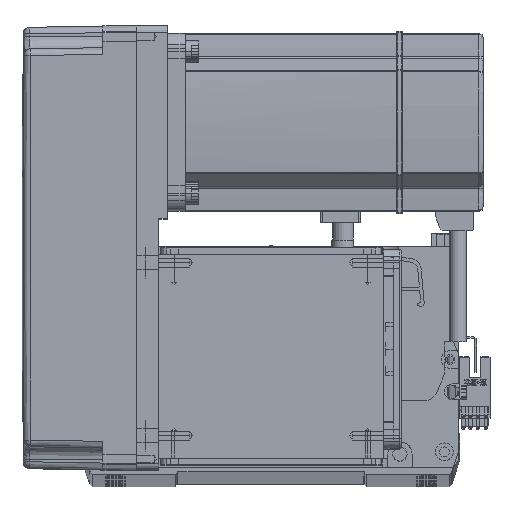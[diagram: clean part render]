
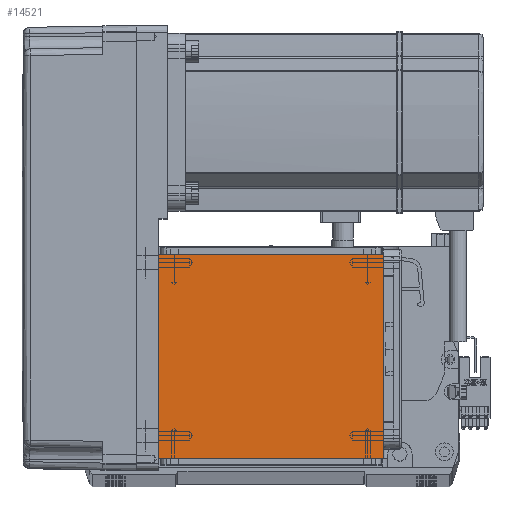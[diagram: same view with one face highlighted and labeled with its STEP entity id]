
A CAD part, top view. The second image highlights one B-rep face of the part: STEP entity #14521.
In plain terms, the highlighted planar face has unit normal (0, 0, 1).
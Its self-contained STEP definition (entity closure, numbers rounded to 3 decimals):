
#497 = VERTEX_POINT ( 'NONE', #62415 ) ;
#639 = VECTOR ( 'NONE', #56247, 1000. ) ;
#1493 = LINE ( 'NONE', #37393, #57865 ) ;
#6396 = ORIENTED_EDGE ( 'NONE', *, *, #32152, .T. ) ;
#7808 = DIRECTION ( 'NONE',  ( 0., 1., 0. ) ) ;
#8717 = CARTESIAN_POINT ( 'NONE',  ( 0., 0., 115. ) ) ;
#14521 = ADVANCED_FACE ( 'NONE', ( #37122 ), #59839, .T. ) ;
#15970 = CARTESIAN_POINT ( 'NONE',  ( -70.004, 20., 115. ) ) ;
#17117 = ORIENTED_EDGE ( 'NONE', *, *, #44227, .F. ) ;
#17346 = EDGE_LOOP ( 'NONE', ( #17117, #6396, #33904, #28190 ) ) ;
#19282 = DIRECTION ( 'NONE',  ( 1., 0., 0. ) ) ;
#20828 = EDGE_CURVE ( 'NONE', #23662, #53068, #45945, .T. ) ;
#21114 = DIRECTION ( 'NONE',  ( -1., 0., 0. ) ) ;
#23110 = VERTEX_POINT ( 'NONE', #65600 ) ;
#23662 = VERTEX_POINT ( 'NONE', #34649 ) ;
#23965 = LINE ( 'NONE', #40738, #639 ) ;
#24939 = VECTOR ( 'NONE', #7808, 1000. ) ;
#28190 = ORIENTED_EDGE ( 'NONE', *, *, #56914, .T. ) ;
#32152 = EDGE_CURVE ( 'NONE', #497, #53068, #23965, .T. ) ;
#32240 = VECTOR ( 'NONE', #21114, 1000. ) ;
#33904 = ORIENTED_EDGE ( 'NONE', *, *, #20828, .F. ) ;
#34649 = CARTESIAN_POINT ( 'NONE',  ( 50.5, 20., 115. ) ) ;
#37122 = FACE_OUTER_BOUND ( 'NONE', #17346, .T. ) ;
#37393 = CARTESIAN_POINT ( 'NONE',  ( -70.004, 111.5, 115. ) ) ;
#37742 = AXIS2_PLACEMENT_3D ( 'NONE', #8717, #64766, #19282 ) ;
#40738 = CARTESIAN_POINT ( 'NONE',  ( -50.5, 122., 115. ) ) ;
#44227 = EDGE_CURVE ( 'NONE', #497, #23110, #1493, .T. ) ;
#45945 = LINE ( 'NONE', #15970, #32240 ) ;
#52960 = DIRECTION ( 'NONE',  ( 1., 0., 0. ) ) ;
#53068 = VERTEX_POINT ( 'NONE', #53615 ) ;
#53615 = CARTESIAN_POINT ( 'NONE',  ( -50.5, 20., 115. ) ) ;
#53747 = CARTESIAN_POINT ( 'NONE',  ( 50.5, 122., 115. ) ) ;
#56247 = DIRECTION ( 'NONE',  ( 0., -1., 0. ) ) ;
#56914 = EDGE_CURVE ( 'NONE', #23662, #23110, #60435, .T. ) ;
#57865 = VECTOR ( 'NONE', #52960, 1000. ) ;
#59839 = PLANE ( 'NONE',  #37742 ) ;
#60435 = LINE ( 'NONE', #53747, #24939 ) ;
#62415 = CARTESIAN_POINT ( 'NONE',  ( -50.5, 111.5, 115. ) ) ;
#64766 = DIRECTION ( 'NONE',  ( 0., 0., 1. ) ) ;
#65600 = CARTESIAN_POINT ( 'NONE',  ( 50.5, 111.5, 115. ) ) ;
